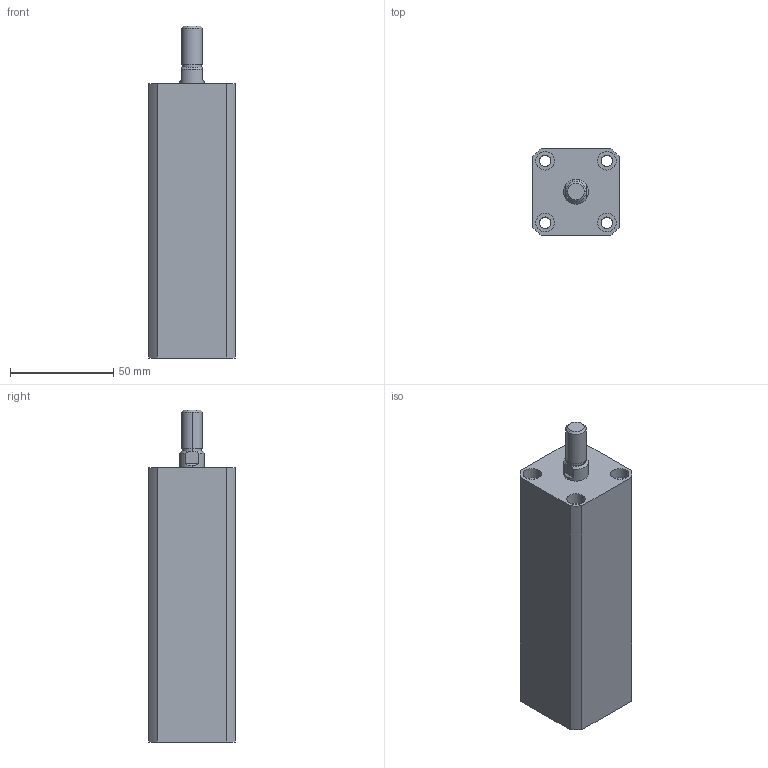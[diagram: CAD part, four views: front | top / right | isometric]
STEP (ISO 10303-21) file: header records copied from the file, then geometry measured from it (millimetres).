
FILE_DESCRIPTION (( 'STEP AP203' ), '1' );
FILE_NAME ('HTB-SDMB20-90W.STEP', '2019-10-09T00:10:50', ( '微软用户' ), ( '微软中国' ), 'SwSTEP 2.0', 'SolidWorks 2012', '' );
FILE_SCHEMA (( 'CONFIG_CONTROL_DESIGN' ));
Length unit declared in the file: millimetre
Products named in the file (3): HTB-SDMB20-90W活塞杆; HTB-SDMB20-90掛极; HTB-SDMB20-90W
Assembly tree (2 placements, depth 2):
  HTB-SDMB20-90W
    HTB-SDMB20-90掛极
    HTB-SDMB20-90W活塞杆
Bounding box: 42 x 42 x 161 mm (x, y, z)
Volume: 199792.5 mm3; surface area: 48741.9 mm2
Topology: 2 solids, 2 shells, 140 faces, 332 edges, 218 vertices
Faces by surface type: plane 66, cylinder 48, bspline 16, torus 6, cone 4
Entity records: 5129 total; most frequent: CARTESIAN_POINT 1587, ORIENTED_EDGE 664, DIRECTION 662, EDGE_CURVE 332, AXIS2_PLACEMENT_3D 241, VERTEX_POINT 218, LINE 180, VECTOR 180
